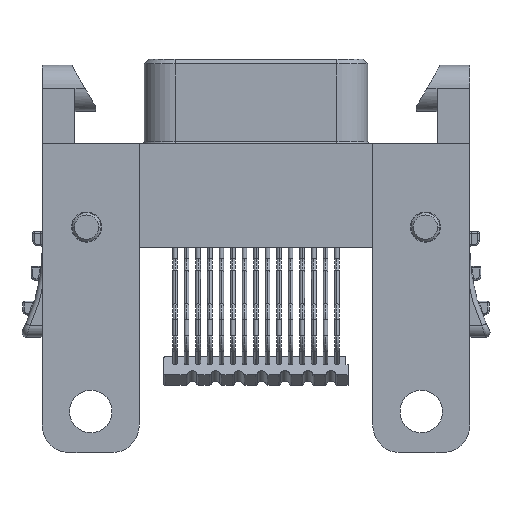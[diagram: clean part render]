
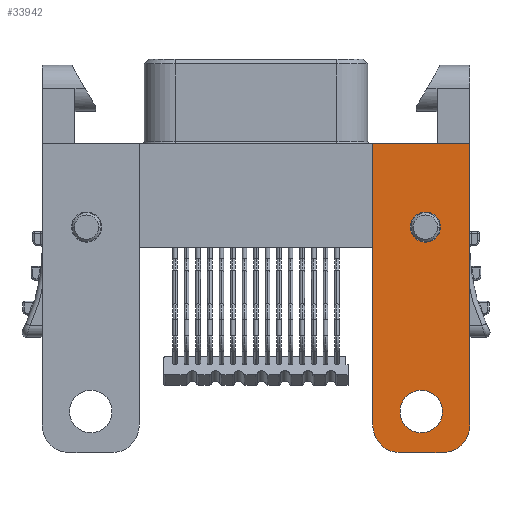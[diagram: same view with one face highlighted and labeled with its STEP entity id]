
A CAD part, front view. The second image highlights one B-rep face of the part: STEP entity #33942.
In plain terms, the highlighted planar face has unit normal (0, -1, 0).
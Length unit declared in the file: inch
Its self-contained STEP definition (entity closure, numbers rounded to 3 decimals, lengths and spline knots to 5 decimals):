
#325 = CIRCLE ( 'NONE', #10687, 0.0325 ) ;
#921 = CARTESIAN_POINT ( 'NONE',  ( 0.2525, -0.17, -0.376 ) ) ;
#1119 = EDGE_CURVE ( 'NONE', #25737, #18900, #10922, .T. ) ;
#1521 = DIRECTION ( 'NONE',  ( 1., 0., 0. ) ) ;
#1553 = CARTESIAN_POINT ( 'NONE',  ( 0.3665, -0.17, -0.1055 ) ) ;
#3086 = CIRCLE ( 'NONE', #22214, 0.046 ) ;
#3345 = ORIENTED_EDGE ( 'NONE', *, *, #16967, .T. ) ;
#3995 = AXIS2_PLACEMENT_3D ( 'NONE', #921, #22634, #16152 ) ;
#4402 = EDGE_CURVE ( 'NONE', #31209, #48058, #325, .T. ) ;
#4446 = FACE_OUTER_BOUND ( 'NONE', #48539, .T. ) ;
#4586 = CIRCLE ( 'NONE', #27600, 0.06 ) ;
#5135 = ORIENTED_EDGE ( 'NONE', *, *, #24549, .F. ) ;
#5826 = DIRECTION ( 'NONE',  ( 0., 0., -1. ) ) ;
#6119 = DIRECTION ( 'NONE',  ( 1., 0., 0. ) ) ;
#8375 = ORIENTED_EDGE ( 'NONE', *, *, #31008, .T. ) ;
#8752 = LINE ( 'NONE', #13775, #9493 ) ;
#9180 = CIRCLE ( 'NONE', #36941, 0.06 ) ;
#9493 = VECTOR ( 'NONE', #1521, 39.37008 ) ;
#9561 = CARTESIAN_POINT ( 'NONE',  ( 0.3125, -0.17, -0.566 ) ) ;
#9602 = ORIENTED_EDGE ( 'NONE', *, *, #20443, .T. ) ;
#10096 = LINE ( 'NONE', #28709, #42694 ) ;
#10687 = AXIS2_PLACEMENT_3D ( 'NONE', #20525, #46959, #27425 ) ;
#10746 = VERTEX_POINT ( 'NONE', #28895 ) ;
#10922 = CIRCLE ( 'NONE', #23605, 0.046 ) ;
#12107 = DIRECTION ( 'NONE',  ( 0., 0., 1. ) ) ;
#12371 = AXIS2_PLACEMENT_3D ( 'NONE', #13565, #43764, #36335 ) ;
#12423 = FACE_BOUND ( 'NONE', #30525, .T. ) ;
#12861 = CARTESIAN_POINT ( 'NONE',  ( 0.4625, -0.17, 0.042 ) ) ;
#12900 = CARTESIAN_POINT ( 'NONE',  ( 0.3125, -0.17, -0.626 ) ) ;
#13565 = CARTESIAN_POINT ( 'NONE',  ( 0.3665, -0.17, -0.138 ) ) ;
#13775 = CARTESIAN_POINT ( 'NONE',  ( 0.2525, -0.17, 0.042 ) ) ;
#14000 = CIRCLE ( 'NONE', #12371, 0.0325 ) ;
#15156 = VERTEX_POINT ( 'NONE', #12861 ) ;
#15726 = CARTESIAN_POINT ( 'NONE',  ( 0.3575, -0.17, -0.491 ) ) ;
#16152 = DIRECTION ( 'NONE',  ( 0., 0., -1. ) ) ;
#16967 = EDGE_CURVE ( 'NONE', #18900, #25737, #3086, .T. ) ;
#17891 = ORIENTED_EDGE ( 'NONE', *, *, #1119, .T. ) ;
#17999 = CARTESIAN_POINT ( 'NONE',  ( 0.2525, -0.17, -0.376 ) ) ;
#18243 = DIRECTION ( 'NONE',  ( 0., 0., 1. ) ) ;
#18900 = VERTEX_POINT ( 'NONE', #15726 ) ;
#19834 = CARTESIAN_POINT ( 'NONE',  ( 0.2525, -0.17, 0.042 ) ) ;
#20075 = VERTEX_POINT ( 'NONE', #12900 ) ;
#20443 = EDGE_CURVE ( 'NONE', #37202, #10746, #9180, .T. ) ;
#20525 = CARTESIAN_POINT ( 'NONE',  ( 0.3665, -0.17, -0.138 ) ) ;
#21682 = DIRECTION ( 'NONE',  ( 0., 0., 1. ) ) ;
#22214 = AXIS2_PLACEMENT_3D ( 'NONE', #30957, #46041, #12107 ) ;
#22459 = EDGE_CURVE ( 'NONE', #38593, #20075, #4586, .T. ) ;
#22634 = DIRECTION ( 'NONE',  ( 0., -1., 0. ) ) ;
#22646 = ORIENTED_EDGE ( 'NONE', *, *, #4402, .T. ) ;
#22699 = LINE ( 'NONE', #17999, #49100 ) ;
#22755 = ORIENTED_EDGE ( 'NONE', *, *, #22459, .T. ) ;
#22852 = EDGE_LOOP ( 'NONE', ( #8375, #22646 ) ) ;
#23344 = FACE_BOUND ( 'NONE', #22852, .T. ) ;
#23423 = EDGE_CURVE ( 'NONE', #33191, #15156, #8752, .T. ) ;
#23464 = CARTESIAN_POINT ( 'NONE',  ( 0.2525, -0.17, -0.566 ) ) ;
#23605 = AXIS2_PLACEMENT_3D ( 'NONE', #25181, #40754, #33346 ) ;
#24549 = EDGE_CURVE ( 'NONE', #38593, #33191, #22699, .T. ) ;
#25181 = CARTESIAN_POINT ( 'NONE',  ( 0.3575, -0.17, -0.537 ) ) ;
#25737 = VERTEX_POINT ( 'NONE', #45710 ) ;
#26572 = PLANE ( 'NONE',  #3995 ) ;
#27425 = DIRECTION ( 'NONE',  ( 0., 0., 1. ) ) ;
#27600 = AXIS2_PLACEMENT_3D ( 'NONE', #9561, #42784, #5826 ) ;
#28709 = CARTESIAN_POINT ( 'NONE',  ( 0.4625, -0.17, -0.626 ) ) ;
#28895 = CARTESIAN_POINT ( 'NONE',  ( 0.4625, -0.17, -0.566 ) ) ;
#30009 = ORIENTED_EDGE ( 'NONE', *, *, #23423, .F. ) ;
#30525 = EDGE_LOOP ( 'NONE', ( #3345, #17891 ) ) ;
#30957 = CARTESIAN_POINT ( 'NONE',  ( 0.3575, -0.17, -0.537 ) ) ;
#31008 = EDGE_CURVE ( 'NONE', #48058, #31209, #14000, .T. ) ;
#31209 = VERTEX_POINT ( 'NONE', #41223 ) ;
#33191 = VERTEX_POINT ( 'NONE', #19834 ) ;
#33346 = DIRECTION ( 'NONE',  ( 0., 0., 1. ) ) ;
#33462 = ORIENTED_EDGE ( 'NONE', *, *, #44344, .T. ) ;
#33942 = ADVANCED_FACE ( 'NONE', ( #23344, #12423, #4446 ), #26572, .T. ) ;
#36335 = DIRECTION ( 'NONE',  ( 0., 0., 1. ) ) ;
#36598 = CARTESIAN_POINT ( 'NONE',  ( 0.4025, -0.17, -0.626 ) ) ;
#36941 = AXIS2_PLACEMENT_3D ( 'NONE', #45615, #41888, #40902 ) ;
#37202 = VERTEX_POINT ( 'NONE', #36598 ) ;
#38593 = VERTEX_POINT ( 'NONE', #23464 ) ;
#39297 = EDGE_CURVE ( 'NONE', #20075, #37202, #10096, .T. ) ;
#40438 = CARTESIAN_POINT ( 'NONE',  ( 0.4625, -0.17, -0.376 ) ) ;
#40754 = DIRECTION ( 'NONE',  ( 0., 1., 0. ) ) ;
#40902 = DIRECTION ( 'NONE',  ( 0., 0., -1. ) ) ;
#41223 = CARTESIAN_POINT ( 'NONE',  ( 0.3665, -0.17, -0.1705 ) ) ;
#41888 = DIRECTION ( 'NONE',  ( 0., -1., 0. ) ) ;
#42694 = VECTOR ( 'NONE', #6119, 39.37008 ) ;
#42784 = DIRECTION ( 'NONE',  ( 0., -1., 0. ) ) ;
#43470 = LINE ( 'NONE', #40438, #47971 ) ;
#43764 = DIRECTION ( 'NONE',  ( 0., 1., 0. ) ) ;
#44344 = EDGE_CURVE ( 'NONE', #10746, #15156, #43470, .T. ) ;
#45374 = ORIENTED_EDGE ( 'NONE', *, *, #39297, .T. ) ;
#45615 = CARTESIAN_POINT ( 'NONE',  ( 0.4025, -0.17, -0.566 ) ) ;
#45710 = CARTESIAN_POINT ( 'NONE',  ( 0.3575, -0.17, -0.583 ) ) ;
#46041 = DIRECTION ( 'NONE',  ( 0., 1., 0. ) ) ;
#46959 = DIRECTION ( 'NONE',  ( 0., 1., 0. ) ) ;
#47971 = VECTOR ( 'NONE', #21682, 39.37008 ) ;
#48058 = VERTEX_POINT ( 'NONE', #1553 ) ;
#48539 = EDGE_LOOP ( 'NONE', ( #5135, #22755, #45374, #9602, #33462, #30009 ) ) ;
#49100 = VECTOR ( 'NONE', #18243, 39.37008 ) ;
